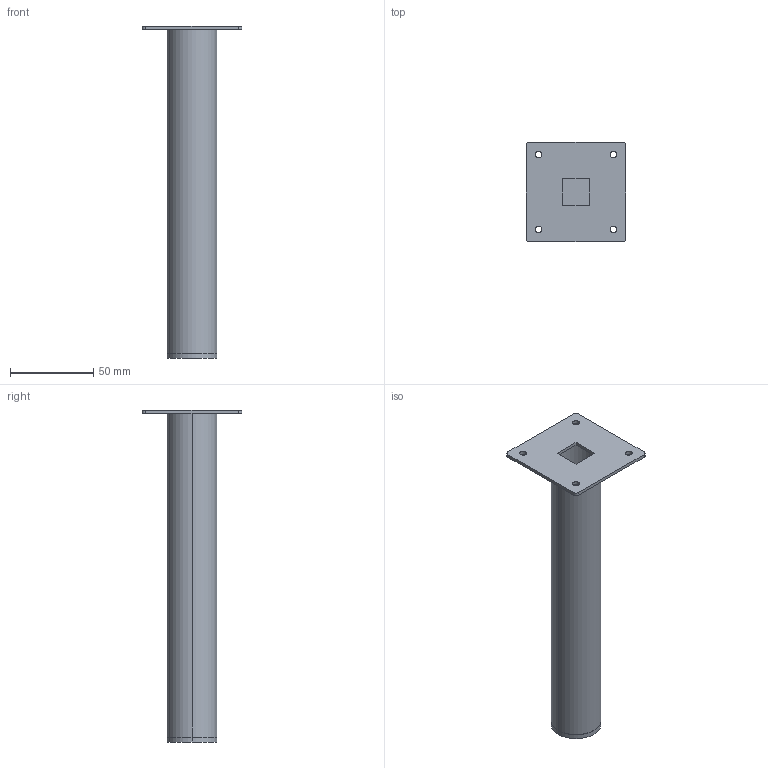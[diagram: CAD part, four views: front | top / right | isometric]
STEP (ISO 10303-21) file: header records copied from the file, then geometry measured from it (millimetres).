
FILE_DESCRIPTION( ( '' ), '1' );
FILE_NAME( 'D:/temp/hettich_stp/hettich/6.5_furniture_legs/table_legs/45771.stp', '2013-02-26T12:27:22', ( '' ), ( '' ), ' ', ' ', ' ' );
FILE_SCHEMA( ( 'automotive_design' ) );
Length unit declared in the file: millimetre
Products named in the file (1): 1
Bounding box: 60 x 60 x 200 mm (x, y, z)
Volume: 26448.8 mm3; surface area: 44507.1 mm2
Topology: 1 solids, 1 shells, 35 faces, 84 edges, 56 vertices
Faces by surface type: cylinder 20, plane 15
Entity records: 2058 total; most frequent: DIRECTION 196, STYLED_ITEM 176, PRESENTATION_STYLE_ASSIGNMENT 176, CARTESIAN_POINT 176, COLOUR_RGB 176, ORIENTED_EDGE 168, EDGE_CURVE 84, CURVE_STYLE 84
